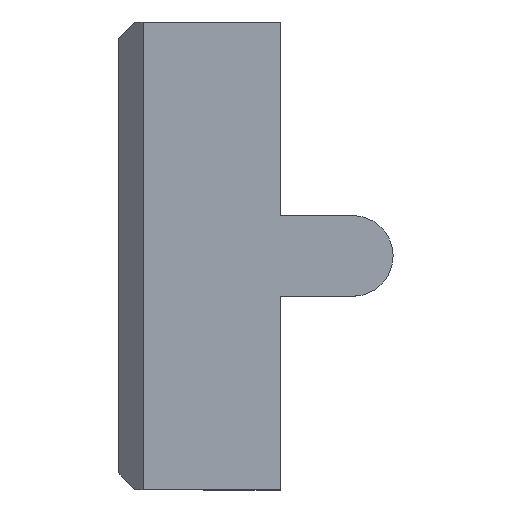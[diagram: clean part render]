
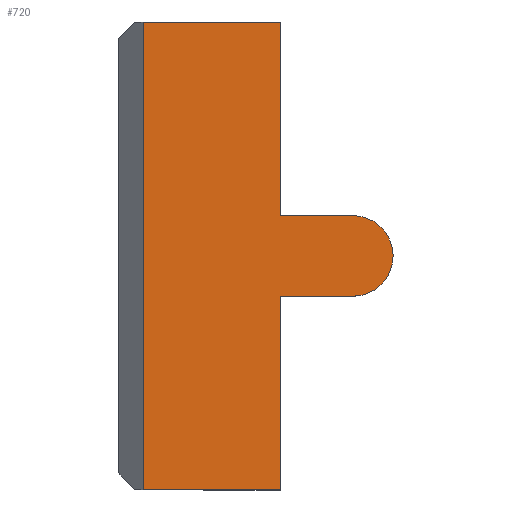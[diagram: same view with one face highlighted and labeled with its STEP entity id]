
A CAD part, top view. The second image highlights one B-rep face of the part: STEP entity #720.
In plain terms, the highlighted planar face has unit normal (0, 0, 1).
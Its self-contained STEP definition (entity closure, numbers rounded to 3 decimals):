
#1=CARTESIAN_POINT('',(-44.5,0.,-73.));
#2=DIRECTION('',(0.,0.,-1.));
#3=DIRECTION('',(0.,1.,0.));
#4=AXIS2_PLACEMENT_3D('',#1,#2,#3);
#6=CARTESIAN_POINT('',(-44.5,0.,-73.));
#7=DIRECTION('',(0.,0.,-1.));
#8=DIRECTION('',(1.,0.,0.));
#9=AXIS2_PLACEMENT_3D('',#6,#7,#8);
#11=DIRECTION('',(0.,1.,0.));
#12=VECTOR('',#11,58.);
#13=CARTESIAN_POINT('',(-70.5,-29.,-73.));
#14=LINE('',#13,#12);
#45=DIRECTION('',(-1.,0.,0.));
#46=VECTOR('',#45,9.);
#47=CARTESIAN_POINT('',(-44.5,5.,-73.));
#48=LINE('',#47,#46);
#53=DIRECTION('',(0.,1.,0.));
#54=VECTOR('',#53,24.);
#55=CARTESIAN_POINT('',(-53.5,-29.,-73.));
#56=LINE('',#55,#54);
#61=DIRECTION('',(0.,1.,0.));
#62=VECTOR('',#61,24.);
#63=CARTESIAN_POINT('',(-53.5,5.,-73.));
#64=LINE('',#63,#62);
#237=DIRECTION('',(-1.,0.,0.));
#238=VECTOR('',#237,17.);
#239=CARTESIAN_POINT('',(-53.5,29.,-73.));
#240=LINE('',#239,#238);
#402=DIRECTION('',(1.,0.,0.));
#403=VECTOR('',#402,17.);
#404=CARTESIAN_POINT('',(-70.5,-29.,-73.));
#405=LINE('',#404,#403);
#531=DIRECTION('',(1.,0.,0.));
#532=VECTOR('',#531,9.);
#533=CARTESIAN_POINT('',(-53.5,-5.,-73.));
#534=LINE('',#533,#532);
#535=CARTESIAN_POINT('',(-44.5,5.,-73.));
#536=CARTESIAN_POINT('',(-39.5,0.,-73.));
#537=VERTEX_POINT('',#535);
#538=VERTEX_POINT('',#536);
#539=CARTESIAN_POINT('',(-44.5,-5.,-73.));
#540=VERTEX_POINT('',#539);
#541=CARTESIAN_POINT('',(-53.5,-5.,-73.));
#542=VERTEX_POINT('',#541);
#543=CARTESIAN_POINT('',(-53.5,-29.,-73.));
#544=VERTEX_POINT('',#543);
#545=CARTESIAN_POINT('',(-70.5,-29.,-73.));
#546=VERTEX_POINT('',#545);
#547=CARTESIAN_POINT('',(-70.5,29.,-73.));
#548=VERTEX_POINT('',#547);
#549=CARTESIAN_POINT('',(-53.5,29.,-73.));
#550=VERTEX_POINT('',#549);
#551=CARTESIAN_POINT('',(-53.5,5.,-73.));
#552=VERTEX_POINT('',#551);
#695=CARTESIAN_POINT('',(0.,0.,-73.));
#696=DIRECTION('',(0.,0.,1.));
#697=DIRECTION('',(1.,0.,0.));
#698=AXIS2_PLACEMENT_3D('',#695,#696,#697);
#699=PLANE('',#698);
#701=ORIENTED_EDGE('',*,*,#700,.T.);
#703=ORIENTED_EDGE('',*,*,#702,.T.);
#705=ORIENTED_EDGE('',*,*,#704,.F.);
#707=ORIENTED_EDGE('',*,*,#706,.F.);
#709=ORIENTED_EDGE('',*,*,#708,.F.);
#711=ORIENTED_EDGE('',*,*,#710,.T.);
#713=ORIENTED_EDGE('',*,*,#712,.F.);
#715=ORIENTED_EDGE('',*,*,#714,.F.);
#717=ORIENTED_EDGE('',*,*,#716,.F.);
#718=EDGE_LOOP('',(#701,#703,#705,#707,#709,#711,#713,#715,#717));
#719=FACE_OUTER_BOUND('',#718,.F.);
#720=ADVANCED_FACE('',(#719),#699,.T.);
#5=CIRCLE('',#4,5.);
#10=CIRCLE('',#9,5.);
#700=EDGE_CURVE('',#537,#538,#5,.T.);
#702=EDGE_CURVE('',#538,#540,#10,.T.);
#704=EDGE_CURVE('',#542,#540,#534,.T.);
#706=EDGE_CURVE('',#544,#542,#56,.T.);
#708=EDGE_CURVE('',#546,#544,#405,.T.);
#710=EDGE_CURVE('',#546,#548,#14,.T.);
#712=EDGE_CURVE('',#550,#548,#240,.T.);
#714=EDGE_CURVE('',#552,#550,#64,.T.);
#716=EDGE_CURVE('',#537,#552,#48,.T.);
